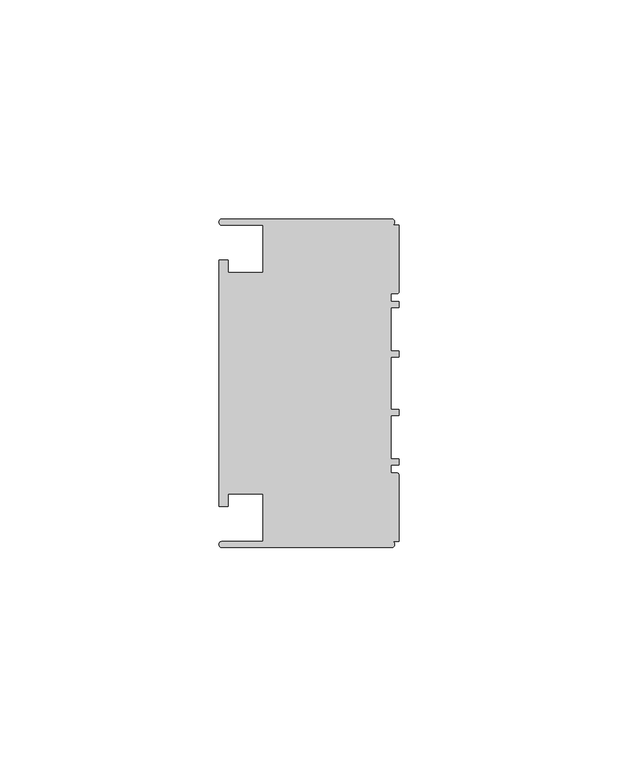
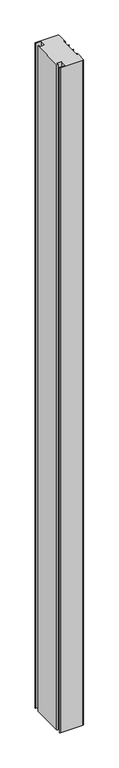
"""IFC4 building model written with IfcOpenShell, lengths in millimetres: member geometry, Прямоугольный импост : 3-AMG-2-Профиль 40Х75 Низ Л."""

import ifcopenshell
import ifcopenshell.guid

model = None  # the IFC model being written
_history = None  # IfcOwnerHistory: only IFC2X3 demands one
_inside = {}  # id of a spatial element -> (the spatial element, [elements in it])
_under = {}  # id of a project, library or spatial element -> (it, [spatial elements below it])
_declared = {}  # id of a project -> (the project, [libraries it declares])
_typed = {}  # id of a type object -> (the type object, [elements of that type])
_made_of = {}  # id of a material, layer set ... -> (it, [elements and type objects made of it])


def new_model(schema):
    """Start an empty IFC model of exactly this schema.

    Asked for "IFC4X3", IfcOpenShell would pick the latest addendum, in which some entities
    have other attributes; the version numbers below select the first issue.
    IFC2X3 requires an IfcOwnerHistory on every rooted entity: one is made here for all.
    """
    global model, _history
    if schema == "IFC4X3":
        model = ifcopenshell.file(schema_version=(4, 3, 0, 0))
    else:
        model = ifcopenshell.file(schema=schema)
    _inside.clear()
    _under.clear()
    _declared.clear()
    _typed.clear()
    _made_of.clear()
    _history = None
    if model.schema == "IFC2X3":
        org = make("IfcOrganization", Name="unknown")
        user = make(
            "IfcPersonAndOrganization",
            ThePerson=make("IfcPerson", FamilyName="unknown"),
            TheOrganization=org,
        )
        app = make(
            "IfcApplication",
            ApplicationDeveloper=org,
            Version="unknown",
            ApplicationFullName="unknown",
            ApplicationIdentifier="unknown",
        )
        _history = make(
            "IfcOwnerHistory",
            OwningUser=user,
            OwningApplication=app,
            ChangeAction="ADDED",
            CreationDate=0,
        )
    return model


def make(cls, **values):
    """One entity of the class cls with the attributes given. An attribute that is None is left unset."""
    return model.create_entity(
        cls, **{name: value for name, value in values.items() if value is not None}
    )


def rooted(cls, **values):
    """An entity with a GlobalId (a new one), such as an element, a storey or a relation."""
    return make(cls, GlobalId=ifcopenshell.guid.new(), OwnerHistory=_history, **values)


def si_unit(unit_type, name, prefix=None):
    """IfcSIUnit, for example si_unit("LENGTHUNIT", "METRE", prefix="MILLI")."""
    return make("IfcSIUnit", UnitType=unit_type, Prefix=prefix, Name=name)


def assignment(units):
    """IfcUnitAssignment: the units of a project."""
    return None if units is None else make("IfcUnitAssignment", Units=units)


def point(xyz):
    """IfcCartesianPoint."""
    return None if xyz is None else make("IfcCartesianPoint", Coordinates=xyz)


def direction(xyz):
    """IfcDirection."""
    return None if xyz is None else make("IfcDirection", DirectionRatios=xyz)


def frame(location, z_axis=None, x_axis=None):
    """IfcAxis2Placement3D, a coordinate frame: its origin and axes. An axis left out is left unset."""
    return make(
        "IfcAxis2Placement3D",
        Location=point(location),
        Axis=direction(z_axis),
        RefDirection=direction(x_axis),
    )


def frame_2d(location, x_axis=None):
    """IfcAxis2Placement2D, a coordinate frame in the plane: its origin and x axis."""
    return make(
        "IfcAxis2Placement2D", Location=point(location), RefDirection=direction(x_axis)
    )


def origin():
    """The frame at (0, 0, 0) with its axes left unset."""
    return frame((0.0, 0.0, 0.0))


def place(relative_to, where):
    """IfcLocalPlacement: puts the frame where relative to a parent placement (None: the world)."""
    return make(
        "IfcLocalPlacement", PlacementRelTo=relative_to, RelativePlacement=where
    )


def context(
    kind, dimensions, precision=None, world=None, true_north=None, identifier=None
):
    """IfcGeometricRepresentationContext, for example the 3D "Model" context."""
    return make(
        "IfcGeometricRepresentationContext",
        ContextIdentifier=identifier,
        ContextType=kind,
        CoordinateSpaceDimension=dimensions,
        Precision=precision,
        WorldCoordinateSystem=world,
        TrueNorth=true_north,
    )


def project(units=None, contexts=None):
    """IfcProject with its units and contexts."""
    return rooted(
        "IfcProject",
        Name="project",
        RepresentationContexts=contexts,
        UnitsInContext=assignment(units),
    )


def spatial(cls, under=None, at=None, **own):
    """A site, building, storey or space (cls), placed at a placement, below another one or the project."""
    s = rooted(cls, ObjectPlacement=at, **own)
    if under is not None:
        _under.setdefault(under.id(), (under, []))[1].append(s)
    return s


def polyline(points):
    """IfcPolyline through the points."""
    return make("IfcPolyline", Points=[point(p) for p in points])


def circle_curve(where, radius):
    """IfcCircle in the frame where."""
    return make("IfcCircle", Position=where, Radius=radius)


def trimmed(basis, trim1, trim2, sense, master):
    """IfcTrimmedCurve: the piece of a basis curve between two trims."""
    return make(
        "IfcTrimmedCurve",
        BasisCurve=basis,
        Trim1=trim1,
        Trim2=trim2,
        SenseAgreement=sense,
        MasterRepresentation=master,
    )


def segment(curve, same_sense, transition):
    """IfcCompositeCurveSegment."""
    return make(
        "IfcCompositeCurveSegment",
        Transition=transition,
        SameSense=same_sense,
        ParentCurve=curve,
    )


def composite_curve(segments, self_intersect=None):
    """IfcCompositeCurve: segments joined end to end."""
    return make("IfcCompositeCurve", Segments=segments, SelfIntersect=self_intersect)


def outline(outer, holes=None, kind="AREA"):
    """IfcArbitraryClosedProfileDef: a profile drawn as a closed curve; with holes, ...WithVoids."""
    if holes is None:
        return make("IfcArbitraryClosedProfileDef", ProfileType=kind, OuterCurve=outer)
    return make(
        "IfcArbitraryProfileDefWithVoids",
        ProfileType=kind,
        OuterCurve=outer,
        InnerCurves=holes,
    )


def extrude(swept, where, along, depth):
    """IfcExtrudedAreaSolid: the profile swept, set in the frame where, extruded along a direction by depth."""
    return make(
        "IfcExtrudedAreaSolid",
        SweptArea=swept,
        Position=where,
        ExtrudedDirection=direction(along),
        Depth=depth,
    )


def shape(context_of_items, identifier, shape_type, items):
    """IfcShapeRepresentation: the items that make up one representation, for example the "Body"."""
    return make(
        "IfcShapeRepresentation",
        ContextOfItems=context_of_items,
        RepresentationIdentifier=identifier,
        RepresentationType=shape_type,
        Items=items,
    )


def source(mapping_origin, context_of_items, identifier, shape_type, items):
    """IfcRepresentationMap: a shape defined once, which mapped items show again and again."""
    return make(
        "IfcRepresentationMap",
        MappingOrigin=mapping_origin,
        MappedRepresentation=shape(context_of_items, identifier, shape_type, items),
    )


def transform(
    local_origin,
    x_axis=None,
    y_axis=None,
    z_axis=None,
    scale=None,
    scale2=None,
    scale3=None,
    uniform=True,
):
    """IfcCartesianTransformationOperator3D, or its non-uniform kind. x_axis, y_axis, z_axis: its Axis1, 2, 3."""
    if uniform:
        return make(
            "IfcCartesianTransformationOperator3D",
            Axis1=direction(x_axis),
            Axis2=direction(y_axis),
            LocalOrigin=point(local_origin),
            Scale=scale,
            Axis3=direction(z_axis),
        )
    return make(
        "IfcCartesianTransformationOperator3DnonUniform",
        Axis1=direction(x_axis),
        Axis2=direction(y_axis),
        LocalOrigin=point(local_origin),
        Scale=scale,
        Axis3=direction(z_axis),
        Scale2=scale2,
        Scale3=scale3,
    )


def mapped(mapping_source, mapping_target):
    """IfcMappedItem: shows the shape of a source again, moved by a transform."""
    return make(
        "IfcMappedItem", MappingSource=mapping_source, MappingTarget=mapping_target
    )


def made_of(thing, what):
    """Note that an element or type object is made of a material, layer set ...; save() writes the relation."""
    if what is not None:
        _made_of.setdefault(what.id(), (what, []))[1].append(thing)
    return thing


def element(
    cls,
    number,
    at=None,
    inside=None,
    cuts=None,
    type_object=None,
    material=None,
    context=None,
    identifier="Body",
    shape_type=None,
    held_by="IfcProductDefinitionShape",
    body=None,
    shapes=None,
    **own,
):
    """One element of the class cls, such as IfcWall. Its Tag is "e" and its number.

    at: its placement. inside: the storey or other place that contains it. cuts: it is an
    opening in that element (IfcRelVoidsElement). A single representation is given by context,
    identifier, shape_type and body (its items); several are given by shapes. held_by: the class
    of the entity that holds the representations. save() writes the other relations.
    """
    e = rooted(cls, Tag="e%d" % number, ObjectPlacement=at, **own)
    if body is not None:
        shapes = [shape(context, identifier, shape_type, body)]
    if shapes is not None:
        e.Representation = make(held_by, Representations=shapes)
    if inside is not None:
        _inside.setdefault(inside.id(), (inside, []))[1].append(e)
    if cuts is not None:
        rooted(
            "IfcRelVoidsElement", RelatingBuildingElement=cuts, RelatedOpeningElement=e
        )
    if type_object is not None:
        _typed.setdefault(type_object.id(), (type_object, []))[1].append(e)
    return made_of(e, material)


def aggregate(whole, parts):
    """IfcRelAggregates: a whole, such as a stair, and the parts it consists of."""
    return rooted("IfcRelAggregates", RelatingObject=whole, RelatedObjects=parts)


def save(model, path):
    """Write the relations noted so far, then the file.

    IfcRelAggregates (storeys below a building ...), IfcRelContainedInSpatialStructure (elements
    in a storey), IfcRelDefinesByType, IfcRelAssociatesMaterial and IfcRelDeclares: one each for
    every whole, place, type object, material and project.
    """
    for whole, parts in _under.values():
        aggregate(whole, parts)
    for where, things in _inside.values():
        rooted(
            "IfcRelContainedInSpatialStructure",
            RelatedElements=things,
            RelatingStructure=where,
        )
    for kind, things in _typed.values():
        rooted("IfcRelDefinesByType", RelatedObjects=things, RelatingType=kind)
    for what, things in _made_of.values():
        rooted("IfcRelAssociatesMaterial", RelatedObjects=things, RelatingMaterial=what)
    for by, libraries in _declared.values():
        rooted("IfcRelDeclares", RelatingContext=by, RelatedDefinitions=libraries)
    model.write(path)


def member_a761dcac(model_context):
    return source(origin(), model_context, "Body", "SweptSolid", [
        extrude(outline(composite_curve([segment(polyline([(-1.7, -37.5), (-40.4, -37.5)]), True, "CONTINUOUS"), segment(trimmed(circle_curve(frame_2d((-40.4, -36.8)), 0.7), [point((-40.4, -37.5))], [point((-40.4, -36.1))], False, "CARTESIAN"), True, "CONTINUOUS"), segment(polyline([(-40.4, -36.1), (-31.0, -36.1), (-31.0, -25.25), (-39.0, -25.25), (-39.0, -28.1), (-41.1, -28.1), (-41.1, 28.1), (-39.0, 28.1), (-39.0, 25.25), (-31.0, 25.25), (-31.0, 36.1), (-40.4, 36.1)]), True, "CONTINUOUS"), segment(trimmed(circle_curve(frame_2d((-40.4, 36.8)), 0.7), [point((-40.4, 36.1))], [point((-40.4, 37.5))], False, "CARTESIAN"), True, "CONTINUOUS"), segment(polyline([(-40.4, 37.5), (-1.7, 37.5)]), True, "CONTINUOUS"), segment(trimmed(circle_curve(frame_2d((-1.7, 36.8)), 0.7), [point((-1.7, 37.5))], [point((-1.7, 36.1))], False, "CARTESIAN"), True, "CONTINUOUS"), segment(polyline([(-1.7, 36.1), (0.0, 36.1), (0.0, 20.95)]), True, "CONTINUOUS"), segment(trimmed(circle_curve(frame_2d((-0.5, 20.95)), 0.5), [point((0.0, 20.95))], [point((-0.5, 20.45))], False, "CARTESIAN"), True, "CONTINUOUS"), segment(polyline([(-0.5, 20.45), (-1.8, 20.45), (-1.8, 18.65), (0.0, 18.65), (0.0, 17.25), (-1.8, 17.25), (-1.8, 7.4), (0.0, 7.4), (0.0, 6.0), (-1.8, 6.0), (-1.8, -6.0), (0.0, -6.0), (0.0, -7.4), (-1.8, -7.4), (-1.8, -17.25), (0.0, -17.25), (0.0, -18.65), (-1.8, -18.65), (-1.8, -20.45), (-0.5, -20.45)]), True, "CONTINUOUS"), segment(trimmed(circle_curve(frame_2d((-0.5, -20.95)), 0.5), [point((-0.5, -20.45))], [point((0.0, -20.95))], False, "CARTESIAN"), True, "CONTINUOUS"), segment(polyline([(0.0, -20.95), (0.0, -36.1), (-1.7, -36.1)]), True, "CONTINUOUS"), segment(trimmed(circle_curve(frame_2d((-1.7, -36.8)), 0.7), [point((-1.7, -36.1))], [point((-1.7, -37.5))], False, "CARTESIAN"), True, "CONTINUOUS")], self_intersect=False)), frame((0.0, 0.0, -1206.1046876), z_axis=(0.0, 0.0, 1.0), x_axis=(1.0, 0.0, 0.0)), (0.0, 0.0, 1.0), 1206.1046876),
    ])


if __name__ == "__main__":
    model = new_model("IFC4")
    model_context = context("Model", 3, world=origin())
    ifc_project = project(units=[si_unit("LENGTHUNIT", "METRE", prefix="MILLI")], contexts=[model_context])
    site = spatial("IfcSite", under=ifc_project)
    building = spatial("IfcBuilding", under=site)
    placement = place(None, origin())
    member_shape = member_a761dcac(model_context)
    element("IfcMember", 1, ObjectType="Прямоугольный импост : 3-AMG-2-Профиль 40Х75 Низ Л", at=placement, inside=building, context=model_context, shape_type="MappedRepresentation", body=[
        mapped(member_shape, transform((0.0, 0.0, 0.0), x_axis=(1.0, 0.0, 0.0), y_axis=(0.0, 1.0, 0.0), z_axis=(0.0, 0.0, 1.0))),
    ])
    save(model, "model.ifc")
